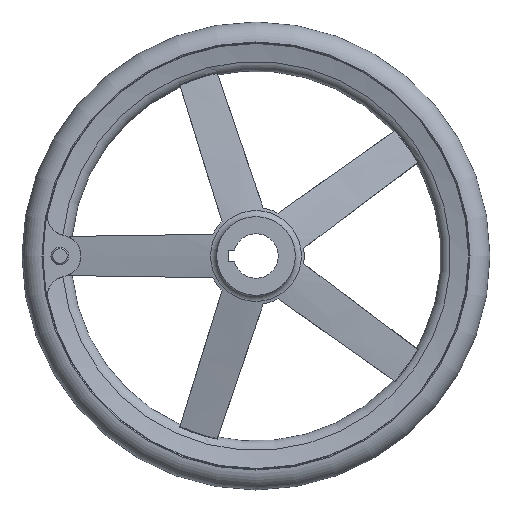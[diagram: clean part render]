
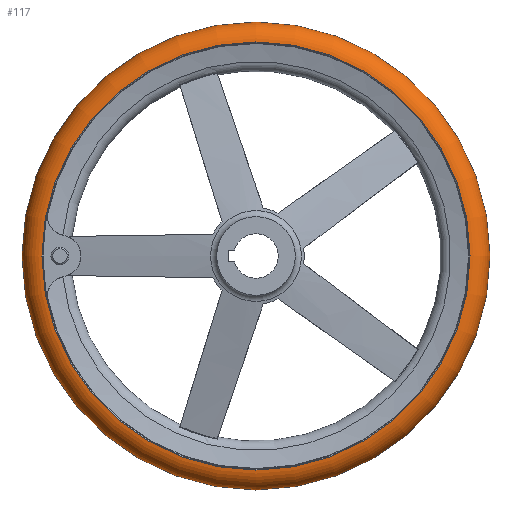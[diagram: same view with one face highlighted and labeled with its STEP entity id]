
A CAD part, left-side view. The second image highlights one B-rep face of the part: STEP entity #117.
In plain terms, the highlighted toroidal (fillet/blend) face has major radius 143.487 mm and minor radius 14.013 mm.
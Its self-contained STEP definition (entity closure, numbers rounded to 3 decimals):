
#117 = ADVANCED_FACE( '', ( #246, #247, #248 ), #249, .T. );
#246 = FACE_BOUND( '', #440, .T. );
#247 = FACE_OUTER_BOUND( '', #441, .T. );
#248 = FACE_OUTER_BOUND( '', #442, .T. );
#249 = TOROIDAL_SURFACE( '', #443, 143.487, 14.013 );
#440 = VERTEX_LOOP( '', #860 );
#441 = EDGE_LOOP( '', ( #861 ) );
#442 = EDGE_LOOP( '', ( #862 ) );
#443 = AXIS2_PLACEMENT_3D( '', #863, #864, #865 );
#860 = VERTEX_POINT( '', #1184 );
#861 = ORIENTED_EDGE( '', *, *, #1185, .T. );
#862 = ORIENTED_EDGE( '', *, *, #1186, .F. );
#863 = CARTESIAN_POINT( '', ( 42., 0., 0. ) );
#864 = DIRECTION( '', ( 1., 0., 0. ) );
#865 = DIRECTION( '', ( 0., 1., 0. ) );
#1184 = CARTESIAN_POINT( '', ( 42., 157.5, 0. ) );
#1185 = EDGE_CURVE( '', #1466, #1466, #1467, .T. );
#1186 = EDGE_CURVE( '', #1468, #1468, #1469, .T. );
#1466 = VERTEX_POINT( '', #2413 );
#1467 = CIRCLE( '', #2414, 144.083 );
#1468 = VERTEX_POINT( '', #2415 );
#1469 = CIRCLE( '', #2416, 144.083 );
#2413 = CARTESIAN_POINT( '', ( 28., 144.083, 0. ) );
#2414 = AXIS2_PLACEMENT_3D( '', #2706, #2707, #2708 );
#2415 = CARTESIAN_POINT( '', ( 56., 144.083, 0. ) );
#2416 = AXIS2_PLACEMENT_3D( '', #2709, #2710, #2711 );
#2706 = CARTESIAN_POINT( '', ( 28., 0., 0. ) );
#2707 = DIRECTION( '', ( 1., 0., 0. ) );
#2708 = DIRECTION( '', ( 0., 1., 0. ) );
#2709 = CARTESIAN_POINT( '', ( 56., 0., 0. ) );
#2710 = DIRECTION( '', ( 1., 0., 0. ) );
#2711 = DIRECTION( '', ( 0., 1., 0. ) );
